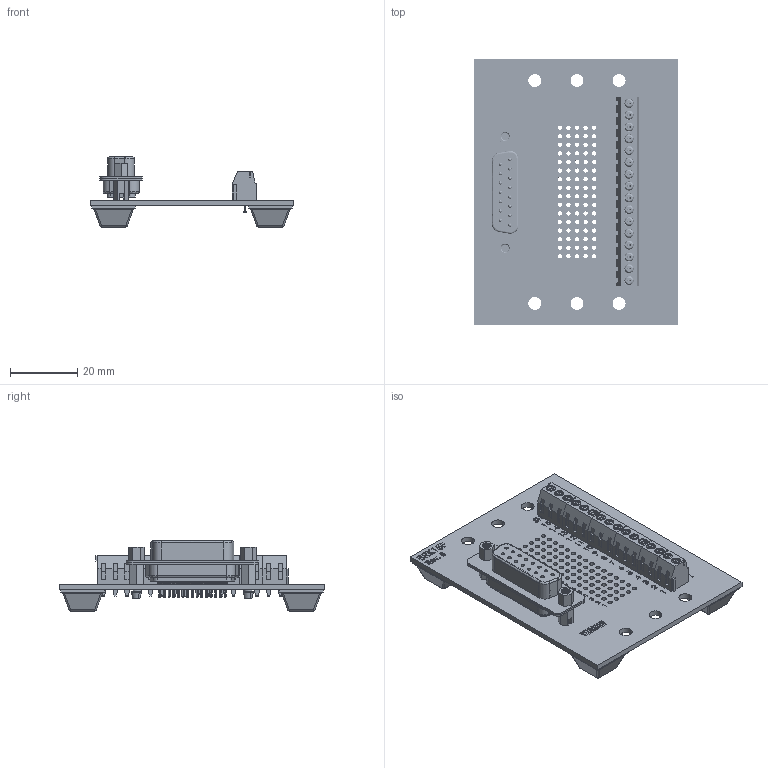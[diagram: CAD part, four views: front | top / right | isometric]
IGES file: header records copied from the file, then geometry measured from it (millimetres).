
Start section: SolidWorks IGES file using analytic representation for surfaces
Global section: file name: C:\Users\Jonny\Documents\Winford Engineering Jobs\BRK15 Boards\BRK15F\brk15f-s-ft_rev_b.IGS; native system: SolidWorks 2017; preprocessor: SolidWorks 2017; author: Jonny; date: 170629.232555; units: inch
Bounding box: 60.44 x 78.86 x 20.78 mm (x, y, z)
Volume: 16040.7 mm3; surface area: 20640.8 mm2
Topology: 48 solids, 48 shells, 3693 faces, 10583 edges, 7150 vertices
Faces by surface type: plane 2047, revolution 1006, bspline 640
